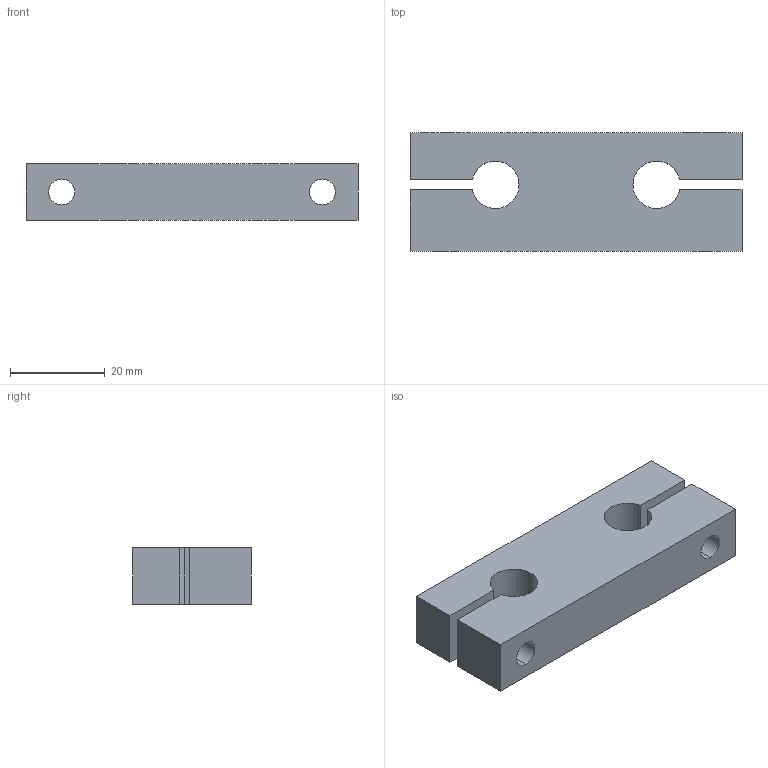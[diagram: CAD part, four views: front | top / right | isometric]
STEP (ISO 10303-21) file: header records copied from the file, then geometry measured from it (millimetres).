
FILE_DESCRIPTION (( 'STEP AP214' ), '1' );
FILE_NAME ('KTA-10.step', '2020-03-04T13:37:38', ( '' ), ( '' ), 'SwSTEP 2.0', 'SolidWorks 2019', '' );
FILE_SCHEMA (( 'AUTOMOTIVE_DESIGN' ));
Length unit declared in the file: millimetre
Products named in the file (1): KTA-10
Bounding box: 70 x 25 x 12 mm (x, y, z)
Volume: 16572.6 mm3; surface area: 7449.3 mm2
Topology: 1 solids, 1 shells, 35 faces, 89 edges, 57 vertices
Faces by surface type: cylinder 17, plane 14, cone 4
Entity records: 1103 total; most frequent: DIRECTION 195, CARTESIAN_POINT 180, ORIENTED_EDGE 174, EDGE_CURVE 87, AXIS2_PLACEMENT_3D 72, VERTEX_POINT 57, LINE 51, VECTOR 51
